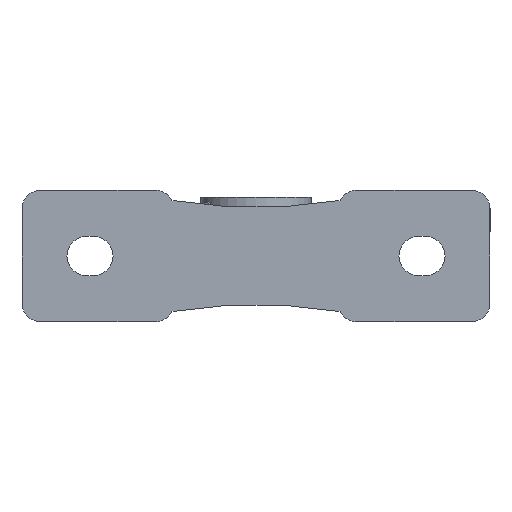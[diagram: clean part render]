
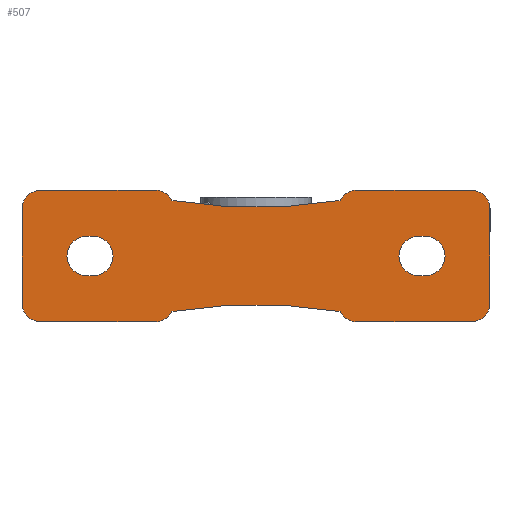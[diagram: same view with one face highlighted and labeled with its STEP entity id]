
A CAD part, front view. The second image highlights one B-rep face of the part: STEP entity #507.
In plain terms, the highlighted planar face has unit normal (0, -1, 0).
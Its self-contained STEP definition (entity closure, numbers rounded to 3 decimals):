
#258=CARTESIAN_POINT('',(0.,-54.,0.));
#259=DIRECTION('',(0.0,1.0,0.0));
#260=DIRECTION('',(0.0,0.0,1.0));
#261=AXIS2_PLACEMENT_3D('',#258,#259,#260);
#262=PLANE('',#261);
#263=CARTESIAN_POINT('',(36.5,-54.,24.));
#264=VERTEX_POINT('',#263);
#265=CARTESIAN_POINT('',(43.694,-54.,28.5));
#266=VERTEX_POINT('',#265);
#267=CARTESIAN_POINT('',(43.694,-54.,20.5));
#268=DIRECTION('',(0.0,1.0,0.0));
#269=DIRECTION('',(-0.899,0.0,0.438));
#270=AXIS2_PLACEMENT_3D('',#267,#268,#269);
#271=CIRCLE('',#270,8.);
#272=EDGE_CURVE('',#264,#266,#271,.T.);
#273=ORIENTED_EDGE('',*,*,#272,.F.);
#274=CARTESIAN_POINT('',(35.369,-54.,24.));
#275=VERTEX_POINT('',#274);
#276=CARTESIAN_POINT('',(35.369,-54.,24.));
#277=DIRECTION('',(1.0,0.0,0.0));
#278=VECTOR('',#277,1.131);
#279=LINE('',#276,#278);
#280=EDGE_CURVE('',#275,#264,#279,.T.);
#281=ORIENTED_EDGE('',*,*,#280,.F.);
#282=CARTESIAN_POINT('',(-35.369,-54.,24.));
#283=VERTEX_POINT('',#282);
#284=CARTESIAN_POINT('',(0.,-54.,231.0));
#285=DIRECTION('',(0.0,-1.0,0.0));
#286=DIRECTION('',(1.0,0.0,0.0));
#287=AXIS2_PLACEMENT_3D('',#284,#285,#286);
#288=CIRCLE('',#287,210.0);
#289=EDGE_CURVE('',#283,#275,#288,.T.);
#290=ORIENTED_EDGE('',*,*,#289,.F.);
#291=CARTESIAN_POINT('',(-36.5,-54.,24.0));
#292=VERTEX_POINT('',#291);
#293=CARTESIAN_POINT('',(-36.5,-54.,24.));
#294=DIRECTION('',(1.0,0.0,0.0));
#295=VECTOR('',#294,1.131);
#296=LINE('',#293,#295);
#297=EDGE_CURVE('',#292,#283,#296,.T.);
#298=ORIENTED_EDGE('',*,*,#297,.F.);
#299=CARTESIAN_POINT('',(-43.694,-54.,28.5));
#300=VERTEX_POINT('',#299);
#301=CARTESIAN_POINT('',(-43.694,-54.,20.5));
#302=DIRECTION('',(0.0,1.0,0.0));
#303=DIRECTION('',(0.899,0.0,0.437));
#304=AXIS2_PLACEMENT_3D('',#301,#302,#303);
#305=CIRCLE('',#304,8.);
#306=EDGE_CURVE('',#300,#292,#305,.T.);
#307=ORIENTED_EDGE('',*,*,#306,.F.);
#308=CARTESIAN_POINT('',(-93.5,-54.,28.5));
#309=VERTEX_POINT('',#308);
#310=CARTESIAN_POINT('',(-93.5,-54.,28.5));
#311=DIRECTION('',(1.0,0.0,0.0));
#312=VECTOR('',#311,49.806);
#313=LINE('',#310,#312);
#314=EDGE_CURVE('',#309,#300,#313,.T.);
#315=ORIENTED_EDGE('',*,*,#314,.F.);
#316=CARTESIAN_POINT('',(-101.5,-54.,20.5));
#317=VERTEX_POINT('',#316);
#318=CARTESIAN_POINT('',(-93.5,-54.,20.5));
#319=DIRECTION('',(0.0,1.0,0.0));
#320=DIRECTION('',(-0.707,0.0,0.707));
#321=AXIS2_PLACEMENT_3D('',#318,#319,#320);
#322=CIRCLE('',#321,8.);
#323=EDGE_CURVE('',#317,#309,#322,.T.);
#324=ORIENTED_EDGE('',*,*,#323,.F.);
#325=CARTESIAN_POINT('',(-101.5,-54.,-20.5));
#326=VERTEX_POINT('',#325);
#327=CARTESIAN_POINT('',(-101.5,-54.,-20.5));
#328=DIRECTION('',(0.0,0.0,1.0));
#329=VECTOR('',#328,41.);
#330=LINE('',#327,#329);
#331=EDGE_CURVE('',#326,#317,#330,.T.);
#332=ORIENTED_EDGE('',*,*,#331,.F.);
#333=CARTESIAN_POINT('',(-93.5,-54.,-28.5));
#334=VERTEX_POINT('',#333);
#335=CARTESIAN_POINT('',(-93.5,-54.,-20.5));
#336=DIRECTION('',(0.0,1.0,0.0));
#337=DIRECTION('',(-0.707,0.0,-0.707));
#338=AXIS2_PLACEMENT_3D('',#335,#336,#337);
#339=CIRCLE('',#338,8.0);
#340=EDGE_CURVE('',#334,#326,#339,.T.);
#341=ORIENTED_EDGE('',*,*,#340,.F.);
#342=CARTESIAN_POINT('',(-43.694,-54.,-28.5));
#343=VERTEX_POINT('',#342);
#344=CARTESIAN_POINT('',(-43.694,-54.,-28.5));
#345=DIRECTION('',(-1.0,0.0,0.0));
#346=VECTOR('',#345,49.806);
#347=LINE('',#344,#346);
#348=EDGE_CURVE('',#343,#334,#347,.T.);
#349=ORIENTED_EDGE('',*,*,#348,.F.);
#350=CARTESIAN_POINT('',(-36.5,-54.,-24.));
#351=VERTEX_POINT('',#350);
#352=CARTESIAN_POINT('',(-43.694,-54.,-20.5));
#353=DIRECTION('',(0.0,1.0,0.0));
#354=DIRECTION('',(0.899,0.0,-0.438));
#355=AXIS2_PLACEMENT_3D('',#352,#353,#354);
#356=CIRCLE('',#355,8.);
#357=EDGE_CURVE('',#351,#343,#356,.T.);
#358=ORIENTED_EDGE('',*,*,#357,.F.);
#359=CARTESIAN_POINT('',(-35.369,-54.,-24.));
#360=VERTEX_POINT('',#359);
#361=CARTESIAN_POINT('',(-35.369,-54.,-24.));
#362=DIRECTION('',(-1.0,0.0,0.0));
#363=VECTOR('',#362,1.131);
#364=LINE('',#361,#363);
#365=EDGE_CURVE('',#360,#351,#364,.T.);
#366=ORIENTED_EDGE('',*,*,#365,.F.);
#367=CARTESIAN_POINT('',(35.369,-54.,-24.));
#368=VERTEX_POINT('',#367);
#369=CARTESIAN_POINT('',(0.,-54.,-231.0));
#370=DIRECTION('',(0.0,-1.0,0.0));
#371=DIRECTION('',(1.0,0.0,0.0));
#372=AXIS2_PLACEMENT_3D('',#369,#370,#371);
#373=CIRCLE('',#372,210.0);
#374=EDGE_CURVE('',#368,#360,#373,.T.);
#375=ORIENTED_EDGE('',*,*,#374,.F.);
#376=CARTESIAN_POINT('',(36.5,-54.,-24.0));
#377=VERTEX_POINT('',#376);
#378=CARTESIAN_POINT('',(36.5,-54.,-24.));
#379=DIRECTION('',(-1.0,0.0,0.0));
#380=VECTOR('',#379,1.131);
#381=LINE('',#378,#380);
#382=EDGE_CURVE('',#377,#368,#381,.T.);
#383=ORIENTED_EDGE('',*,*,#382,.F.);
#384=CARTESIAN_POINT('',(43.694,-54.,-28.5));
#385=VERTEX_POINT('',#384);
#386=CARTESIAN_POINT('',(43.694,-54.,-20.5));
#387=DIRECTION('',(0.0,1.0,0.0));
#388=DIRECTION('',(-0.899,0.0,-0.437));
#389=AXIS2_PLACEMENT_3D('',#386,#387,#388);
#390=CIRCLE('',#389,8.);
#391=EDGE_CURVE('',#385,#377,#390,.T.);
#392=ORIENTED_EDGE('',*,*,#391,.F.);
#393=CARTESIAN_POINT('',(93.5,-54.,-28.5));
#394=VERTEX_POINT('',#393);
#395=CARTESIAN_POINT('',(93.5,-54.,-28.5));
#396=DIRECTION('',(-1.0,0.0,0.0));
#397=VECTOR('',#396,49.806);
#398=LINE('',#395,#397);
#399=EDGE_CURVE('',#394,#385,#398,.T.);
#400=ORIENTED_EDGE('',*,*,#399,.F.);
#401=CARTESIAN_POINT('',(101.5,-54.,-20.5));
#402=VERTEX_POINT('',#401);
#403=CARTESIAN_POINT('',(93.5,-54.,-20.5));
#404=DIRECTION('',(0.0,1.0,0.0));
#405=DIRECTION('',(0.707,0.0,-0.707));
#406=AXIS2_PLACEMENT_3D('',#403,#404,#405);
#407=CIRCLE('',#406,8.);
#408=EDGE_CURVE('',#402,#394,#407,.T.);
#409=ORIENTED_EDGE('',*,*,#408,.F.);
#410=CARTESIAN_POINT('',(101.5,-54.,20.5));
#411=VERTEX_POINT('',#410);
#412=CARTESIAN_POINT('',(101.5,-54.,20.5));
#413=DIRECTION('',(0.0,0.0,-1.0));
#414=VECTOR('',#413,41.0);
#415=LINE('',#412,#414);
#416=EDGE_CURVE('',#411,#402,#415,.T.);
#417=ORIENTED_EDGE('',*,*,#416,.F.);
#418=CARTESIAN_POINT('',(93.5,-54.,28.5));
#419=VERTEX_POINT('',#418);
#420=CARTESIAN_POINT('',(93.5,-54.,20.5));
#421=DIRECTION('',(0.0,1.0,0.0));
#422=DIRECTION('',(0.707,0.0,0.707));
#423=AXIS2_PLACEMENT_3D('',#420,#421,#422);
#424=CIRCLE('',#423,8.0);
#425=EDGE_CURVE('',#419,#411,#424,.T.);
#426=ORIENTED_EDGE('',*,*,#425,.F.);
#427=CARTESIAN_POINT('',(43.694,-54.,28.5));
#428=DIRECTION('',(1.0,0.0,0.0));
#429=VECTOR('',#428,49.806);
#430=LINE('',#427,#429);
#431=EDGE_CURVE('',#266,#419,#430,.T.);
#432=ORIENTED_EDGE('',*,*,#431,.F.);
#433=EDGE_LOOP('',(#273,#281,#290,#298,#307,#315,#324,#332,#341,#349,#358,#366,#375,#383,#392,#400,#409,#417,#426,#432));
#434=FACE_OUTER_BOUND('',#433,.T.);
#435=CARTESIAN_POINT('',(-70.5,-54.,-8.5));
#436=VERTEX_POINT('',#435);
#437=CARTESIAN_POINT('',(-70.5,-54.,8.5));
#438=VERTEX_POINT('',#437);
#439=CARTESIAN_POINT('',(-70.5,-54.,0.0));
#440=DIRECTION('',(0.0,-1.0,0.0));
#441=DIRECTION('',(0.0,0.0,-1.0));
#442=AXIS2_PLACEMENT_3D('',#439,#440,#441);
#443=CIRCLE('',#442,8.5);
#444=EDGE_CURVE('',#436,#438,#443,.T.);
#445=ORIENTED_EDGE('',*,*,#444,.F.);
#446=CARTESIAN_POINT('',(-73.5,-54.,-8.5));
#447=VERTEX_POINT('',#446);
#448=CARTESIAN_POINT('',(-73.5,-54.,-8.5));
#449=DIRECTION('',(1.0,0.0,0.0));
#450=VECTOR('',#449,3.0);
#451=LINE('',#448,#450);
#452=EDGE_CURVE('',#447,#436,#451,.T.);
#453=ORIENTED_EDGE('',*,*,#452,.F.);
#454=CARTESIAN_POINT('',(-73.5,-54.,8.5));
#455=VERTEX_POINT('',#454);
#456=CARTESIAN_POINT('',(-73.5,-54.,0.0));
#457=DIRECTION('',(0.0,-1.0,0.0));
#458=DIRECTION('',(0.0,0.0,1.0));
#459=AXIS2_PLACEMENT_3D('',#456,#457,#458);
#460=CIRCLE('',#459,8.5);
#461=EDGE_CURVE('',#455,#447,#460,.T.);
#462=ORIENTED_EDGE('',*,*,#461,.F.);
#463=CARTESIAN_POINT('',(-70.5,-54.,8.5));
#464=DIRECTION('',(-1.0,0.0,0.0));
#465=VECTOR('',#464,3.0);
#466=LINE('',#463,#465);
#467=EDGE_CURVE('',#438,#455,#466,.T.);
#468=ORIENTED_EDGE('',*,*,#467,.F.);
#469=EDGE_LOOP('',(#445,#453,#462,#468));
#470=FACE_BOUND('',#469,.T.);
#471=CARTESIAN_POINT('',(70.5,-54.,-8.5));
#472=VERTEX_POINT('',#471);
#473=CARTESIAN_POINT('',(73.5,-54.,-8.5));
#474=VERTEX_POINT('',#473);
#475=CARTESIAN_POINT('',(70.5,-54.,-8.5));
#476=DIRECTION('',(1.0,0.0,0.0));
#477=VECTOR('',#476,3.0);
#478=LINE('',#475,#477);
#479=EDGE_CURVE('',#472,#474,#478,.T.);
#480=ORIENTED_EDGE('',*,*,#479,.F.);
#481=CARTESIAN_POINT('',(70.5,-54.,8.5));
#482=VERTEX_POINT('',#481);
#483=CARTESIAN_POINT('',(70.5,-54.,0.0));
#484=DIRECTION('',(0.0,-1.0,0.0));
#485=DIRECTION('',(0.0,0.0,1.0));
#486=AXIS2_PLACEMENT_3D('',#483,#484,#485);
#487=CIRCLE('',#486,8.5);
#488=EDGE_CURVE('',#482,#472,#487,.T.);
#489=ORIENTED_EDGE('',*,*,#488,.F.);
#490=CARTESIAN_POINT('',(73.5,-54.,8.5));
#491=VERTEX_POINT('',#490);
#492=CARTESIAN_POINT('',(73.5,-54.,8.5));
#493=DIRECTION('',(-1.0,0.0,0.0));
#494=VECTOR('',#493,3.0);
#495=LINE('',#492,#494);
#496=EDGE_CURVE('',#491,#482,#495,.T.);
#497=ORIENTED_EDGE('',*,*,#496,.F.);
#498=CARTESIAN_POINT('',(73.5,-54.,0.0));
#499=DIRECTION('',(0.0,-1.0,0.0));
#500=DIRECTION('',(0.0,0.0,-1.0));
#501=AXIS2_PLACEMENT_3D('',#498,#499,#500);
#502=CIRCLE('',#501,8.5);
#503=EDGE_CURVE('',#474,#491,#502,.T.);
#504=ORIENTED_EDGE('',*,*,#503,.F.);
#505=EDGE_LOOP('',(#480,#489,#497,#504));
#506=FACE_BOUND('',#505,.T.);
#507=ADVANCED_FACE('',(#434,#470,#506),#262,.F.);
